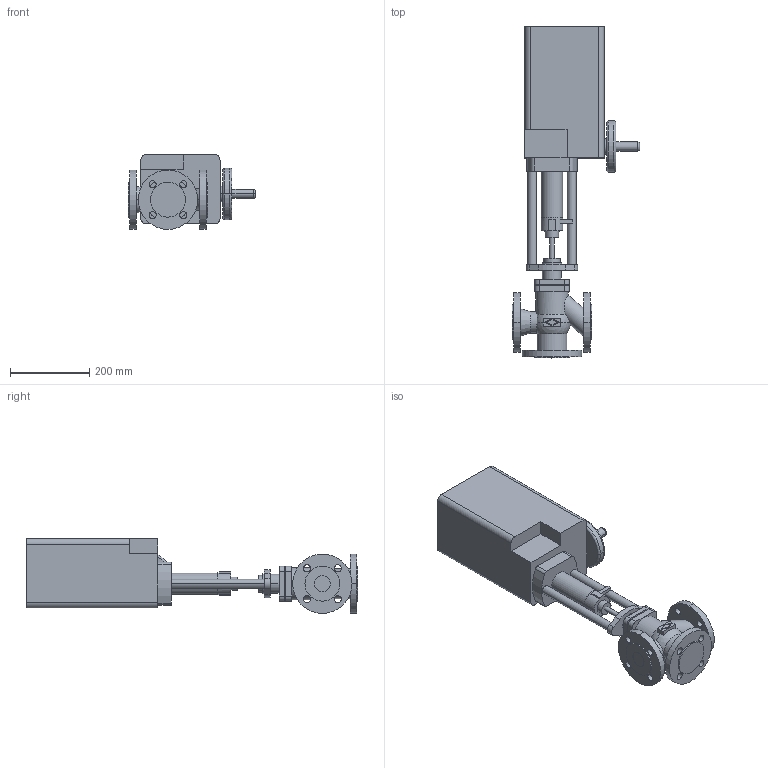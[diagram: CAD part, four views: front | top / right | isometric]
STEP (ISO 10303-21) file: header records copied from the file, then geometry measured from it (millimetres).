
FILE_DESCRIPTION(('OneSpaceDesigner STEP Export'),'2;1');
FILE_NAME('c000002409.stp','2006-09-19T12:04:39',(''),(''),'OneSpace Designer STEP processor for AP214 (Solid Model)','OneSpace Designer 13.20A 18-Aug-2005 (C) CoCreate Software GmbH','');
FILE_SCHEMA(('AUTOMOTIVE_DESIGN { 1 0 10303 214 1 1 1 1 }'));
Length unit declared in the file: millimetre
Products named in the file (2): 1; 2
Bounding box: 321.6 x 839 x 189 mm (x, y, z)
Volume: 14941142.5 mm3; surface area: 654997.5 mm2
Topology: 2 solids, 2 shells, 198 faces, 486 edges, 321 vertices
Faces by surface type: cylinder 96, plane 90, torus 6, sphere 4, cone 2
Entity records: 5580 total; most frequent: CARTESIAN_POINT 1123, ORIENTED_EDGE 972, DIRECTION 841, EDGE_CURVE 486, VERTEX_POINT 321, AXIS2_PLACEMENT_3D 300, EDGE_LOOP 251, VECTOR 241
